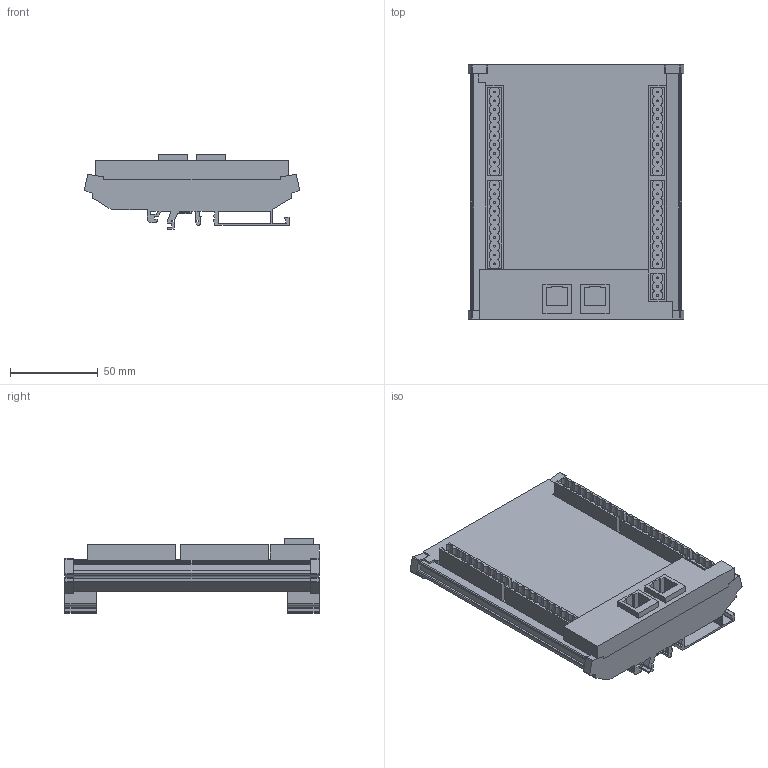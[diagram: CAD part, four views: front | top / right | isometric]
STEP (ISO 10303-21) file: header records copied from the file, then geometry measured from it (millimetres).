
FILE_DESCRIPTION(/* description */ (''),/* implementation_level */ '2;1');
FILE_NAME(/* name */ 'EIO1616MT.bmp.stp',/* time_stamp */ '2019-10-15T09:54:13+08:00',/* author */ (''),/* organization */ (''),/* preprocessor_version */ 'ST-DEVELOPER v16.7',/* originating_system */ 'SIEMENS PLM Software NX 12.0',/* authorisation */ '');
FILE_SCHEMA (('AUTOMOTIVE_DESIGN { 1 0 10303 214 3 1 1 1 }'));
Length unit declared in the file: millimetre
Products named in the file (1): zmio_2__stp
Bounding box: 122.83 x 145 x 42.76 mm (x, y, z)
Volume: 326950.6 mm3; surface area: 113645 mm2
Topology: 11 solids, 11 shells, 589 faces, 1609 edges, 1087 vertices
Faces by surface type: plane 359, cylinder 230
Full cylindrical faces by diameter (mm): 1 x43
Entity records: 18857 total; most frequent: DIRECTION 3163, CARTESIAN_POINT 3157, ORIENTED_EDGE 3046, EDGE_CURVE 1523, LINE 1063, VECTOR 1063, AXIS2_PLACEMENT_3D 1050, VERTEX_POINT 1044
